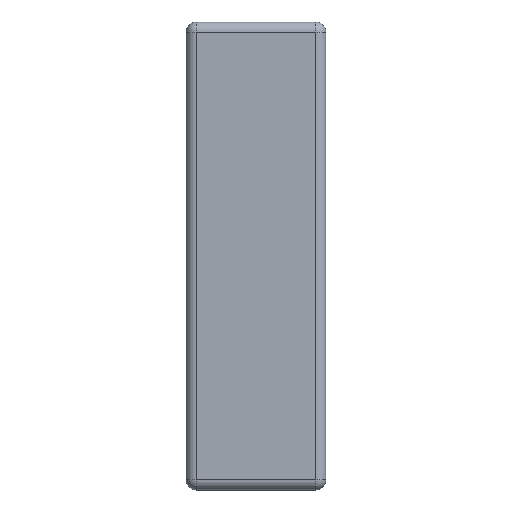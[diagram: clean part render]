
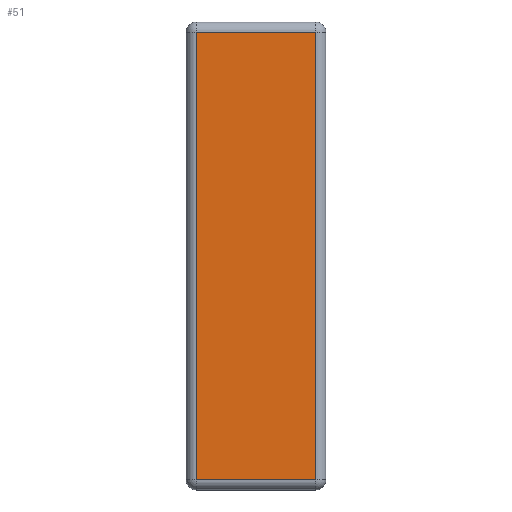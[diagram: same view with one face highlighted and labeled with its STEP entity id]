
A CAD part, left-side view. The second image highlights one B-rep face of the part: STEP entity #51.
In plain terms, the highlighted planar face has unit normal (-1, 0, 0).
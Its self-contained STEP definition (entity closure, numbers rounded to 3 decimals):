
#51=ADVANCED_FACE('',(#177),#176,.T.);
#176=PLANE('',#366);
#177=FACE_OUTER_BOUND('',#367,.T.);
#363=CARTESIAN_POINT('',(-3.,-35.35,-37.1));
#364=DIRECTION('',(-1.,0.,0.));
#365=DIRECTION('',(0.,0.,1.));
#366=AXIS2_PLACEMENT_3D('',#363,#364,#365);
#367=EDGE_LOOP('',(#477,#478,#479,#480));
#477=ORIENTED_EDGE('',*,*,#556,.T.);
#478=ORIENTED_EDGE('',*,*,#557,.T.);
#479=ORIENTED_EDGE('',*,*,#558,.T.);
#480=ORIENTED_EDGE('',*,*,#559,.T.);
#556=EDGE_CURVE('',#787,#788,#789,.T.);
#557=EDGE_CURVE('',#788,#678,#795,.T.);
#558=EDGE_CURVE('',#678,#801,#802,.T.);
#559=EDGE_CURVE('',#801,#787,#808,.T.);
#678=VERTEX_POINT('',#960);
#787=VERTEX_POINT('',#1023);
#788=VERTEX_POINT('',#1024);
#789=LINE('',#1025,#1026);
#795=LINE('',#1028,#1029);
#801=VERTEX_POINT('',#1031);
#802=LINE('',#1032,#1033);
#808=LINE('',#1035,#1036);
#960=CARTESIAN_POINT('',(-3.,-33.,-28.3));
#1023=CARTESIAN_POINT('',(-3.,-9.5,59.7));
#1024=CARTESIAN_POINT('',(-3.,-9.5,-28.3));
#1025=CARTESIAN_POINT('',(-3.,-9.5,59.7));
#1026=VECTOR('',#1027,88.);
#1027=DIRECTION('',(0.,0.,-1.));
#1028=CARTESIAN_POINT('',(-3.,-9.5,-28.3));
#1029=VECTOR('',#1030,23.5);
#1030=DIRECTION('',(0.,-1.,0.));
#1031=CARTESIAN_POINT('',(-3.,-33.,59.7));
#1032=CARTESIAN_POINT('',(-3.,-33.,-28.3));
#1033=VECTOR('',#1034,88.);
#1034=DIRECTION('',(0.,0.,1.));
#1035=CARTESIAN_POINT('',(-3.,-33.,59.7));
#1036=VECTOR('',#1037,23.5);
#1037=DIRECTION('',(0.,1.,0.));
